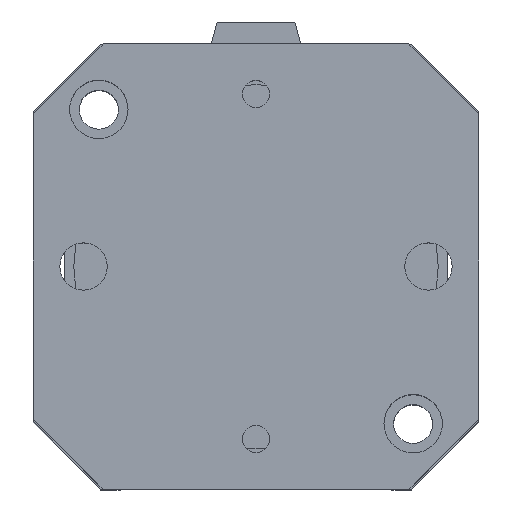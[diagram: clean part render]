
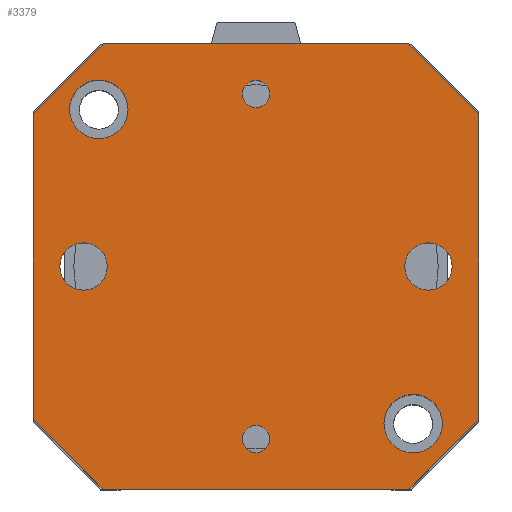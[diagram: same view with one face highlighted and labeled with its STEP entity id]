
A CAD part, top view. The second image highlights one B-rep face of the part: STEP entity #3379.
In plain terms, the highlighted planar face has unit normal (0, 0, 1).
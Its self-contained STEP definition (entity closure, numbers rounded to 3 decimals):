
#265=LINE('',#5630,#519);
#267=LINE('',#5634,#521);
#269=LINE('',#5638,#523);
#271=LINE('',#5642,#525);
#273=LINE('',#5646,#527);
#275=LINE('',#5650,#529);
#277=LINE('',#5654,#531);
#279=LINE('',#5657,#533);
#519=VECTOR('',#4681,55.);
#521=VECTOR('',#4685,17.678);
#523=VECTOR('',#4689,55.);
#525=VECTOR('',#4693,17.678);
#527=VECTOR('',#4697,55.);
#529=VECTOR('',#4701,17.678);
#531=VECTOR('',#4705,55.);
#533=VECTOR('',#4709,17.678);
#627=PLANE('',#3743);
#716=FACE_BOUND('',#1138,.T.);
#717=FACE_BOUND('',#1139,.T.);
#718=FACE_BOUND('',#1140,.T.);
#719=FACE_BOUND('',#1141,.T.);
#720=FACE_BOUND('',#1142,.T.);
#721=FACE_BOUND('',#1143,.T.);
#722=FACE_BOUND('',#1144,.T.);
#1138=EDGE_LOOP('',(#2914));
#1139=EDGE_LOOP('',(#2915));
#1140=EDGE_LOOP('',(#2916));
#1141=EDGE_LOOP('',(#2917));
#1142=EDGE_LOOP('',(#2918));
#1143=EDGE_LOOP('',(#2919));
#1144=EDGE_LOOP('',(#2920,#2921,#2922,#2923,#2924,#2925,#2926,#2927));
#1309=CIRCLE('',#3699,2.459);
#1311=CIRCLE('',#3702,2.459);
#1316=CIRCLE('',#3710,4.25);
#1320=CIRCLE('',#3717,4.25);
#1329=CIRCLE('',#3732,5.25);
#1330=CIRCLE('',#3734,5.25);
#1601=VERTEX_POINT('',#5548);
#1603=VERTEX_POINT('',#5553);
#1608=VERTEX_POINT('',#5566);
#1612=VERTEX_POINT('',#5577);
#1631=VERTEX_POINT('',#5621);
#1632=VERTEX_POINT('',#5624);
#1633=VERTEX_POINT('',#5627);
#1634=VERTEX_POINT('',#5629);
#1635=VERTEX_POINT('',#5633);
#1636=VERTEX_POINT('',#5637);
#1637=VERTEX_POINT('',#5641);
#1638=VERTEX_POINT('',#5645);
#1639=VERTEX_POINT('',#5649);
#1640=VERTEX_POINT('',#5653);
#2025=EDGE_CURVE('',#1601,#1601,#1309,.T.);
#2027=EDGE_CURVE('',#1603,#1603,#1311,.T.);
#2032=EDGE_CURVE('',#1608,#1608,#1316,.T.);
#2036=EDGE_CURVE('',#1612,#1612,#1320,.T.);
#2055=EDGE_CURVE('',#1631,#1631,#1329,.T.);
#2056=EDGE_CURVE('',#1632,#1632,#1330,.T.);
#2058=EDGE_CURVE('',#1634,#1633,#265,.T.);
#2060=EDGE_CURVE('',#1635,#1634,#267,.T.);
#2062=EDGE_CURVE('',#1636,#1635,#269,.T.);
#2064=EDGE_CURVE('',#1637,#1636,#271,.T.);
#2066=EDGE_CURVE('',#1638,#1637,#273,.T.);
#2068=EDGE_CURVE('',#1639,#1638,#275,.T.);
#2070=EDGE_CURVE('',#1640,#1639,#277,.T.);
#2072=EDGE_CURVE('',#1633,#1640,#279,.T.);
#2914=ORIENTED_EDGE('',*,*,#2025,.T.);
#2915=ORIENTED_EDGE('',*,*,#2027,.T.);
#2916=ORIENTED_EDGE('',*,*,#2032,.T.);
#2917=ORIENTED_EDGE('',*,*,#2036,.T.);
#2918=ORIENTED_EDGE('',*,*,#2055,.T.);
#2919=ORIENTED_EDGE('',*,*,#2056,.T.);
#2920=ORIENTED_EDGE('',*,*,#2072,.T.);
#2921=ORIENTED_EDGE('',*,*,#2070,.T.);
#2922=ORIENTED_EDGE('',*,*,#2068,.T.);
#2923=ORIENTED_EDGE('',*,*,#2066,.T.);
#2924=ORIENTED_EDGE('',*,*,#2064,.T.);
#2925=ORIENTED_EDGE('',*,*,#2062,.T.);
#2926=ORIENTED_EDGE('',*,*,#2060,.T.);
#2927=ORIENTED_EDGE('',*,*,#2058,.T.);
#3379=ADVANCED_FACE('',(#716,#717,#718,#719,#720,#721,#722),#627,.T.);
#3699=AXIS2_PLACEMENT_3D('',#5549,#4596,#4597);
#3702=AXIS2_PLACEMENT_3D('',#5554,#4602,#4603);
#3710=AXIS2_PLACEMENT_3D('',#5567,#4618,#4619);
#3717=AXIS2_PLACEMENT_3D('',#5578,#4632,#4633);
#3732=AXIS2_PLACEMENT_3D('',#5622,#4672,#4673);
#3734=AXIS2_PLACEMENT_3D('',#5625,#4676,#4677);
#3743=AXIS2_PLACEMENT_3D('',#5658,#4710,#4711);
#4596=DIRECTION('center_axis',(0.,0.,-1.));
#4597=DIRECTION('ref_axis',(1.,0.,0.));
#4602=DIRECTION('center_axis',(0.,0.,-1.));
#4603=DIRECTION('ref_axis',(1.,0.,0.));
#4618=DIRECTION('center_axis',(0.,0.,-1.));
#4619=DIRECTION('ref_axis',(1.,0.,0.));
#4632=DIRECTION('center_axis',(0.,0.,-1.));
#4633=DIRECTION('ref_axis',(1.,0.,0.));
#4672=DIRECTION('center_axis',(0.,0.,-1.));
#4673=DIRECTION('ref_axis',(-1.,0.,0.));
#4676=DIRECTION('center_axis',(0.,0.,-1.));
#4677=DIRECTION('ref_axis',(-1.,0.,0.));
#4681=DIRECTION('',(0.,1.,0.));
#4685=DIRECTION('',(0.707,0.707,0.));
#4689=DIRECTION('',(1.,0.,0.));
#4693=DIRECTION('',(0.707,-0.707,0.));
#4697=DIRECTION('',(0.,-1.,0.));
#4701=DIRECTION('',(-0.707,-0.707,0.));
#4705=DIRECTION('',(-1.,0.,0.));
#4709=DIRECTION('',(-0.707,0.707,0.));
#4710=DIRECTION('center_axis',(0.,0.,1.));
#4711=DIRECTION('ref_axis',(1.,0.,0.));
#5548=CARTESIAN_POINT('',(-33.459,0.,72.25));
#5549=CARTESIAN_POINT('Origin',(-31.,0.,72.25));
#5553=CARTESIAN_POINT('',(28.542,0.,72.25));
#5554=CARTESIAN_POINT('Origin',(31.,0.,72.25));
#5566=CARTESIAN_POINT('',(-4.25,31.,72.25));
#5567=CARTESIAN_POINT('Origin',(0.,31.,72.25));
#5577=CARTESIAN_POINT('',(-4.25,-31.,72.25));
#5578=CARTESIAN_POINT('Origin',(0.,-31.,72.25));
#5621=CARTESIAN_POINT('',(-23.,-28.25,72.25));
#5622=CARTESIAN_POINT('Origin',(-28.25,-28.25,72.25));
#5624=CARTESIAN_POINT('',(33.5,28.25,72.25));
#5625=CARTESIAN_POINT('Origin',(28.25,28.25,72.25));
#5627=CARTESIAN_POINT('',(40.,27.5,72.25));
#5629=CARTESIAN_POINT('',(40.,-27.5,72.25));
#5630=CARTESIAN_POINT('',(40.,27.5,72.25));
#5633=CARTESIAN_POINT('',(27.5,-40.,72.25));
#5634=CARTESIAN_POINT('',(40.,-27.5,72.25));
#5637=CARTESIAN_POINT('',(-27.5,-40.,72.25));
#5638=CARTESIAN_POINT('',(27.5,-40.,72.25));
#5641=CARTESIAN_POINT('',(-40.,-27.5,72.25));
#5642=CARTESIAN_POINT('',(-27.5,-40.,72.25));
#5645=CARTESIAN_POINT('',(-40.,27.5,72.25));
#5646=CARTESIAN_POINT('',(-40.,-27.5,72.25));
#5649=CARTESIAN_POINT('',(-27.5,40.,72.25));
#5650=CARTESIAN_POINT('',(-40.,27.5,72.25));
#5653=CARTESIAN_POINT('',(27.5,40.,72.25));
#5654=CARTESIAN_POINT('',(-27.5,40.,72.25));
#5657=CARTESIAN_POINT('',(27.5,40.,72.25));
#5658=CARTESIAN_POINT('Origin',(0.,0.,
72.25));
